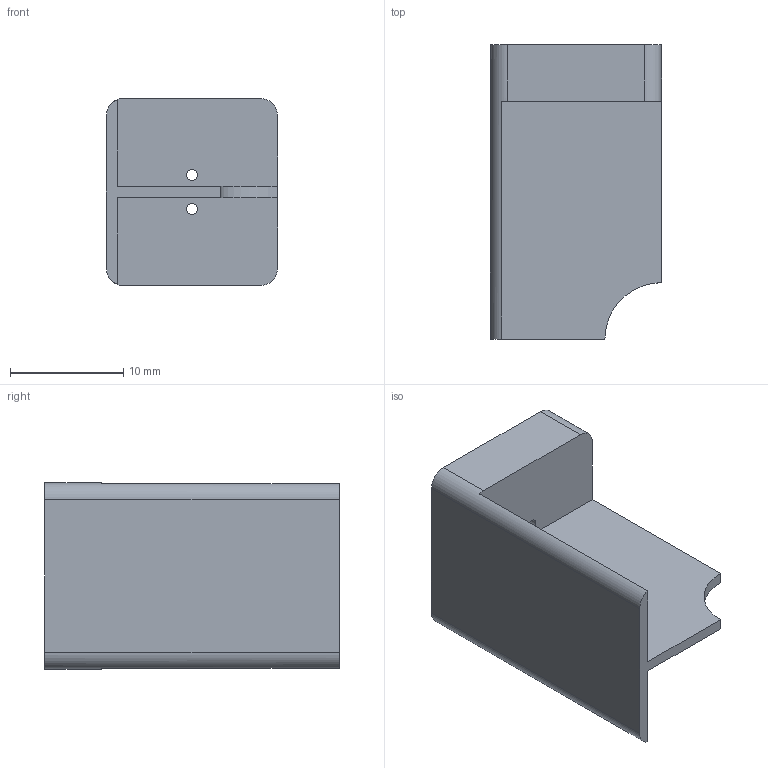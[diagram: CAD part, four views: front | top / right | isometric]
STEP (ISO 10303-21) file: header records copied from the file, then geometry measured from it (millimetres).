
FILE_DESCRIPTION(/* description */ (''),/* implementation_level */ '2;1');
FILE_NAME(/* name */ 'C:/Users/haller/Dropbox/CWC_CheapWordClock/3D daten/Lichtsensorhalterung v9.step',/* time_stamp */ '2017-10-11T14:35:52+02:00',/* author */ (''),/* organization */ (''),/* preprocessor_version */ 'ST-DEVELOPER v16.13',/* originating_system */ 'Autodesk Translation Framework v6.1.1.50',/* authorisation */ '');
FILE_SCHEMA (('AUTOMOTIVE_DESIGN { 1 0 10303 214 3 1 1 }'));
Length unit declared in the file: millimetre
Products named in the file (1): Lichtsensorhalterung v9
Bounding box: 15.1 x 26 x 16.5 mm (x, y, z)
Volume: 1309.2 mm3; surface area: 2170.4 mm2
Topology: 1 solids, 1 shells, 30 faces, 83 edges, 56 vertices
Faces by surface type: plane 15, cylinder 11, bspline 2, torus 2
Full cylindrical faces by diameter (mm): 1 x2
Entity records: 1303 total; most frequent: CARTESIAN_POINT 544, ORIENTED_EDGE 158, DIRECTION 139, EDGE_CURVE 79, VERTEX_POINT 54, AXIS2_PLACEMENT_3D 49, LINE 41, VECTOR 41
